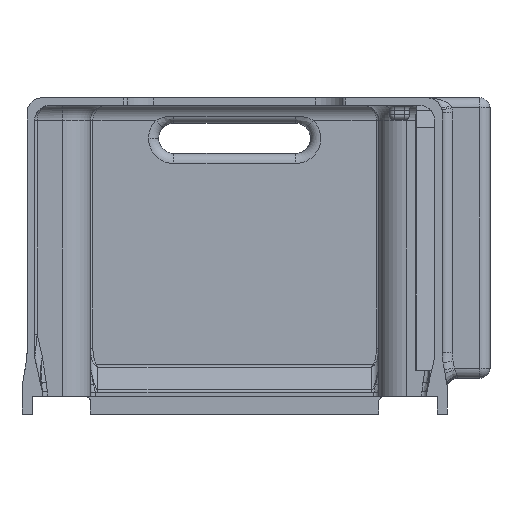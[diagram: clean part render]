
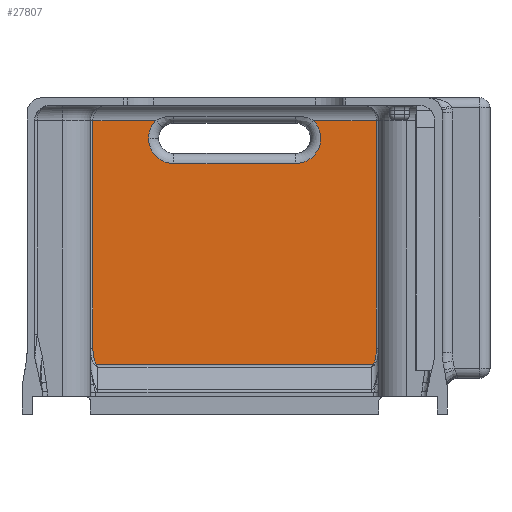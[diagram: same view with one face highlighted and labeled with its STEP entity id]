
A CAD part, front view. The second image highlights one B-rep face of the part: STEP entity #27807.
In plain terms, the highlighted planar face has unit normal (0, -1, 0).
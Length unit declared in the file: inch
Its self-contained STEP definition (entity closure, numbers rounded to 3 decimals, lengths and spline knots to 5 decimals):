
#1421 = ORIENTED_EDGE ( 'NONE', *, *, #12233, .T. ) ;
#1879 = EDGE_CURVE ( 'NONE', #26642, #6808, #30364, .T. ) ;
#2363 = VECTOR ( 'NONE', #20527, 39.37008 ) ;
#3289 = CARTESIAN_POINT ( 'NONE',  ( -1.75, 0.25, 0.49767 ) ) ;
#3538 = CARTESIAN_POINT ( 'NONE',  ( -1.75, 0.25, 0.59744 ) ) ;
#3663 = CARTESIAN_POINT ( 'NONE',  ( -0.97317, 0.25, 3.40625 ) ) ;
#4873 = EDGE_CURVE ( 'NONE', #26756, #11569, #17915, .T. ) ;
#5249 = LINE ( 'NONE', #20197, #32641 ) ;
#5389 = LINE ( 'NONE', #24978, #21461 ) ;
#5529 = DIRECTION ( 'NONE',  ( 0., 1., 0. ) ) ;
#5991 = CARTESIAN_POINT ( 'NONE',  ( -1.73289, 0.25, 0.41762 ) ) ;
#6776 = CARTESIAN_POINT ( 'NONE',  ( -0.75, 0.25, 2.875 ) ) ;
#6808 = VERTEX_POINT ( 'NONE', #17574 ) ;
#6978 = CARTESIAN_POINT ( 'NONE',  ( 0.97317, 0.25, 3.40625 ) ) ;
#7037 = CARTESIAN_POINT ( 'NONE',  ( 0.75, 0.25, 3.1875 ) ) ;
#7324 = ORIENTED_EDGE ( 'NONE', *, *, #4873, .T. ) ;
#7423 = AXIS2_PLACEMENT_3D ( 'NONE', #24925, #27590, #11488 ) ;
#7669 = CARTESIAN_POINT ( 'NONE',  ( 1.75, 0.25, 2.875 ) ) ;
#7702 = EDGE_CURVE ( 'NONE', #13853, #26756, #5249, .T. ) ;
#7713 = DIRECTION ( 'NONE',  ( 1., 0., 0. ) ) ;
#8051 = DIRECTION ( 'NONE',  ( -1., 0., 0. ) ) ;
#8564 = EDGE_LOOP ( 'NONE', ( #10370, #1421, #20414, #21771, #9672, #7324, #14128, #32661, #15935, #18368, #24810 ) ) ;
#9672 = ORIENTED_EDGE ( 'NONE', *, *, #7702, .T. ) ;
#10370 = ORIENTED_EDGE ( 'NONE', *, *, #11561, .T. ) ;
#10376 = CARTESIAN_POINT ( 'NONE',  ( 1.75, 0.25, 0.59744 ) ) ;
#10434 = VERTEX_POINT ( 'NONE', #6978 ) ;
#11102 = CARTESIAN_POINT ( 'NONE',  ( -1.75, 0.25, 0.59744 ) ) ;
#11198 = VERTEX_POINT ( 'NONE', #15324 ) ;
#11488 = DIRECTION ( 'NONE',  ( -1., 0., 0. ) ) ;
#11561 = EDGE_CURVE ( 'NONE', #24961, #18105, #34821, .T. ) ;
#11569 = VERTEX_POINT ( 'NONE', #29540 ) ;
#11663 = CIRCLE ( 'NONE', #28353, 0.3125 ) ;
#12185 = DIRECTION ( 'NONE',  ( 0., 0., -1. ) ) ;
#12233 = EDGE_CURVE ( 'NONE', #18105, #11198, #11663, .T. ) ;
#13853 = VERTEX_POINT ( 'NONE', #31805 ) ;
#14128 = ORIENTED_EDGE ( 'NONE', *, *, #31964, .T. ) ;
#15324 = CARTESIAN_POINT ( 'NONE',  ( -1.0625, 0.25, 3.1875 ) ) ;
#15694 = EDGE_CURVE ( 'NONE', #28525, #13853, #16788, .T. ) ;
#15831 = CARTESIAN_POINT ( 'NONE',  ( 1.73289, 0.25, 0.41762 ) ) ;
#15882 = CIRCLE ( 'NONE', #27219, 0.3125 ) ;
#15918 = CARTESIAN_POINT ( 'NONE',  ( 1.75, 0.25, 13.00886 ) ) ;
#15935 = ORIENTED_EDGE ( 'NONE', *, *, #21883, .F. ) ;
#16444 = CARTESIAN_POINT ( 'NONE',  ( 1.75, 0.25, 0.49767 ) ) ;
#16788 = LINE ( 'NONE', #33421, #2363 ) ;
#17574 = CARTESIAN_POINT ( 'NONE',  ( 1.75, 0.25, 0.59744 ) ) ;
#17915 =( BOUNDED_CURVE ( )  B_SPLINE_CURVE ( 3, ( #11102, #3289, #5991, #27077 ),
 .UNSPECIFIED., .F., .F. ) 
 B_SPLINE_CURVE_WITH_KNOTS ( ( 4, 4 ),
 ( 1.5708, 2.85033 ),
 .UNSPECIFIED. ) 
 CURVE ( )  GEOMETRIC_REPRESENTATION_ITEM ( )  RATIONAL_B_SPLINE_CURVE ( ( 1., 0.868, 0.868, 1. ) ) 
 REPRESENTATION_ITEM ( '' )  );
#18105 = VERTEX_POINT ( 'NONE', #6776 ) ;
#18368 = ORIENTED_EDGE ( 'NONE', *, *, #27156, .T. ) ;
#18879 = CARTESIAN_POINT ( 'NONE',  ( -1.75, 0.25, 3.40625 ) ) ;
#19104 = AXIS2_PLACEMENT_3D ( 'NONE', #15918, #34647, #26658 ) ;
#19850 = CIRCLE ( 'NONE', #7423, 0.3125 ) ;
#20152 = DIRECTION ( 'NONE',  ( -1., 0., 0. ) ) ;
#20197 = CARTESIAN_POINT ( 'NONE',  ( -1.75, 0.25, 13.00886 ) ) ;
#20414 = ORIENTED_EDGE ( 'NONE', *, *, #32285, .T. ) ;
#20527 = DIRECTION ( 'NONE',  ( -1., 0., 0. ) ) ;
#20548 = VECTOR ( 'NONE', #26861, 39.37008 ) ;
#21461 = VECTOR ( 'NONE', #33170, 39.37008 ) ;
#21505 = CARTESIAN_POINT ( 'NONE',  ( 1.75, 0.25, 0.38897 ) ) ;
#21771 = ORIENTED_EDGE ( 'NONE', *, *, #15694, .T. ) ;
#21883 = EDGE_CURVE ( 'NONE', #32741, #6808, #5389, .T. ) ;
#22192 = CARTESIAN_POINT ( 'NONE',  ( 1.70545, 0.25, 0.38897 ) ) ;
#22771 = VECTOR ( 'NONE', #24284, 39.37008 ) ;
#23681 = CARTESIAN_POINT ( 'NONE',  ( 1.70545, 0.25, 0.38897 ) ) ;
#24231 = CARTESIAN_POINT ( 'NONE',  ( 1.75, 0.25, 3.40625 ) ) ;
#24284 = DIRECTION ( 'NONE',  ( -1., 0., 0. ) ) ;
#24810 = ORIENTED_EDGE ( 'NONE', *, *, #29173, .T. ) ;
#24925 = CARTESIAN_POINT ( 'NONE',  ( -0.75, 0.25, 3.1875 ) ) ;
#24961 = VERTEX_POINT ( 'NONE', #28540 ) ;
#24978 = CARTESIAN_POINT ( 'NONE',  ( 1.75, 0.25, 13.00886 ) ) ;
#26331 = PLANE ( 'NONE',  #19104 ) ;
#26642 = VERTEX_POINT ( 'NONE', #22192 ) ;
#26658 = DIRECTION ( 'NONE',  ( -1., 0., 0. ) ) ;
#26756 = VERTEX_POINT ( 'NONE', #3538 ) ;
#26861 = DIRECTION ( 'NONE',  ( -1., 0., 0. ) ) ;
#27077 = CARTESIAN_POINT ( 'NONE',  ( -1.70545, 0.25, 0.38897 ) ) ;
#27156 = EDGE_CURVE ( 'NONE', #32741, #10434, #33262, .T. ) ;
#27219 = AXIS2_PLACEMENT_3D ( 'NONE', #7037, #28582, #20152 ) ;
#27343 = CARTESIAN_POINT ( 'NONE',  ( -0.75, 0.25, 3.1875 ) ) ;
#27590 = DIRECTION ( 'NONE',  ( 0., 1., 0. ) ) ;
#27807 = ADVANCED_FACE ( 'NONE', ( #34061 ), #26331, .F. ) ;
#28353 = AXIS2_PLACEMENT_3D ( 'NONE', #27343, #5529, #8051 ) ;
#28525 = VERTEX_POINT ( 'NONE', #3663 ) ;
#28540 = CARTESIAN_POINT ( 'NONE',  ( 0.75, 0.25, 2.875 ) ) ;
#28582 = DIRECTION ( 'NONE',  ( 0., 1., 0. ) ) ;
#29173 = EDGE_CURVE ( 'NONE', #10434, #24961, #15882, .T. ) ;
#29540 = CARTESIAN_POINT ( 'NONE',  ( -1.70545, 0.25, 0.38897 ) ) ;
#29934 = LINE ( 'NONE', #21505, #32016 ) ;
#30364 =( BOUNDED_CURVE ( )  B_SPLINE_CURVE ( 3, ( #23681, #15831, #16444, #10376 ),
 .UNSPECIFIED., .F., .F. ) 
 B_SPLINE_CURVE_WITH_KNOTS ( ( 4, 4 ),
 ( 3.43286, 4.71239 ),
 .UNSPECIFIED. ) 
 CURVE ( )  GEOMETRIC_REPRESENTATION_ITEM ( )  RATIONAL_B_SPLINE_CURVE ( ( 1., 0.868, 0.868, 1. ) ) 
 REPRESENTATION_ITEM ( '' )  );
#31805 = CARTESIAN_POINT ( 'NONE',  ( -1.75, 0.25, 3.40625 ) ) ;
#31964 = EDGE_CURVE ( 'NONE', #11569, #26642, #29934, .T. ) ;
#32016 = VECTOR ( 'NONE', #7713, 39.37008 ) ;
#32285 = EDGE_CURVE ( 'NONE', #11198, #28525, #19850, .T. ) ;
#32641 = VECTOR ( 'NONE', #12185, 39.37008 ) ;
#32661 = ORIENTED_EDGE ( 'NONE', *, *, #1879, .T. ) ;
#32741 = VERTEX_POINT ( 'NONE', #24231 ) ;
#33170 = DIRECTION ( 'NONE',  ( 0., 0., -1. ) ) ;
#33262 = LINE ( 'NONE', #18879, #22771 ) ;
#33421 = CARTESIAN_POINT ( 'NONE',  ( -1.75, 0.25, 3.40625 ) ) ;
#34061 = FACE_OUTER_BOUND ( 'NONE', #8564, .T. ) ;
#34647 = DIRECTION ( 'NONE',  ( 0., 1., 0. ) ) ;
#34821 = LINE ( 'NONE', #7669, #20548 ) ;
